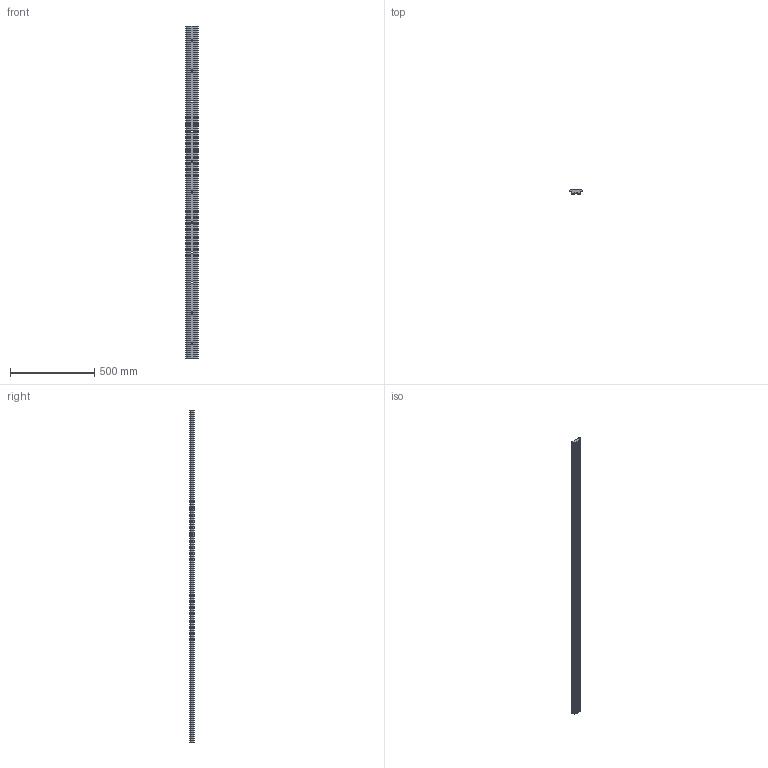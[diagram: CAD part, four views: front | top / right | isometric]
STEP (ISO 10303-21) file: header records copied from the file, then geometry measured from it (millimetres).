
FILE_DESCRIPTION(('STEP AP203'),'1');
FILE_NAME('slide_nl76l1976p2.stp','2022-07-01T05:45:40',('TraceParts'),('TraceParts S.A.'),'Spatial InterOp 3D',' ',' ');
FILE_SCHEMA(('CONFIG_CONTROL_DESIGN'));
Length unit declared in the file: millimetre
Products named in the file (1): 1
Bounding box: 75.61 x 24.41 x 1976 mm (x, y, z)
Volume: 2464848.1 mm3; surface area: 408048.1 mm2
Topology: 1 solids, 1 shells, 93 faces, 240 edges, 160 vertices
Faces by surface type: cylinder 56, plane 37
Entity records: 2974 total; most frequent: DIRECTION 540, CARTESIAN_POINT 494, ORIENTED_EDGE 480, EDGE_CURVE 240, AXIS2_PLACEMENT_3D 206, VERTEX_POINT 160, LINE 128, VECTOR 128
